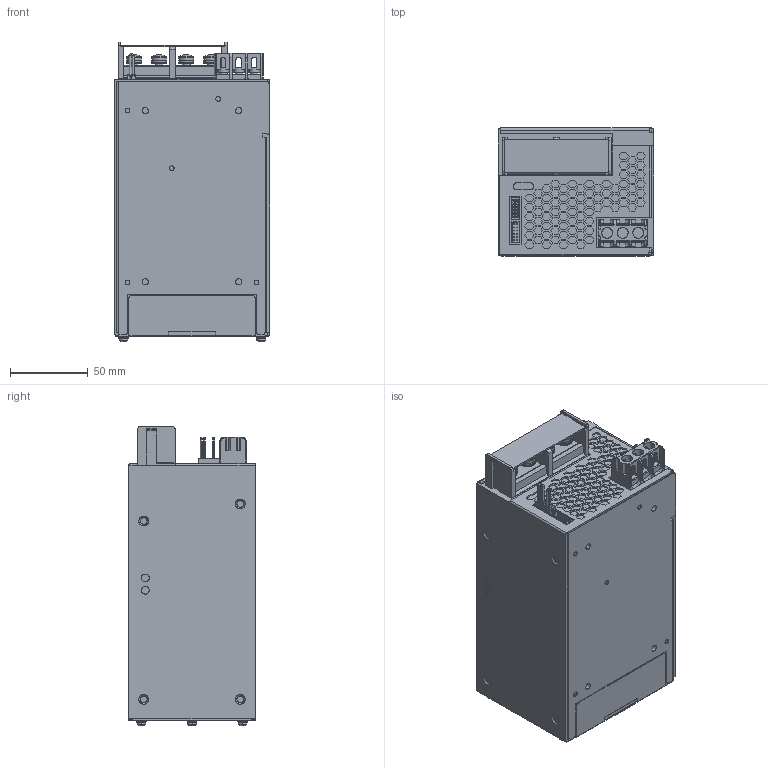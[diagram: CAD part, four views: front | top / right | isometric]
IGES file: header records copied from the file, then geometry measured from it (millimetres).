
Start section: SolidWorks IGES file using analytic representation for surfaces
Global section: file name: C:\HWS600_OUTLINE.IGS; native system: SolidWorks 2006 by SolidWorks Corporation; preprocessor: SolidWorks 2006 by SolidWorks Corporation; author: 3444matsunaga; date: 060915.164814; units: millimetre
Bounding box: 100 x 82 x 192.55 mm (x, y, z)
Surface area: 98737.8 mm2 (no closed solid volume)
Topology: 0 solids, 0 shells, 2201 faces, 21483 edges, 21463 vertices
Faces by surface type: bspline 1505, revolution 696
